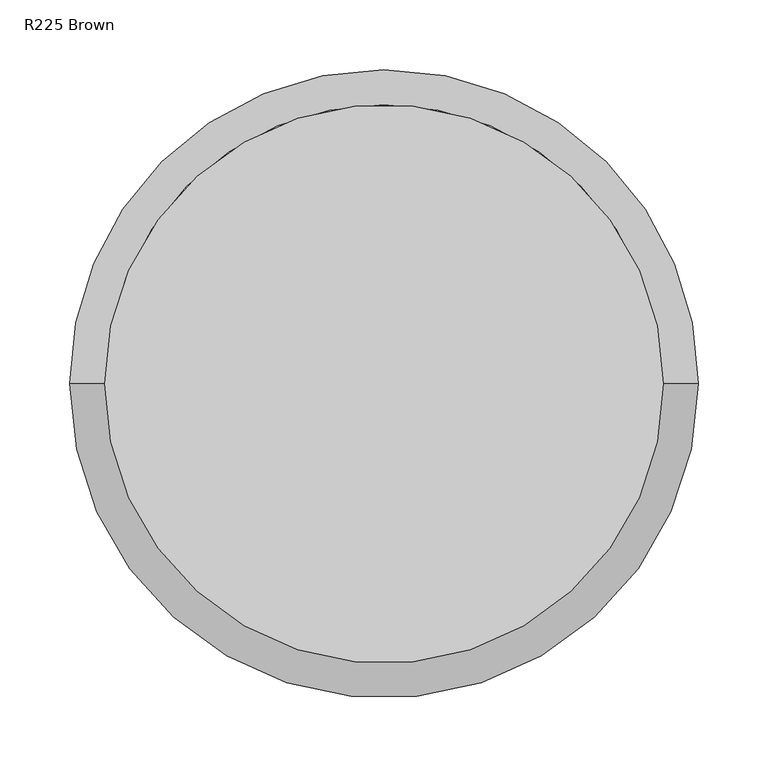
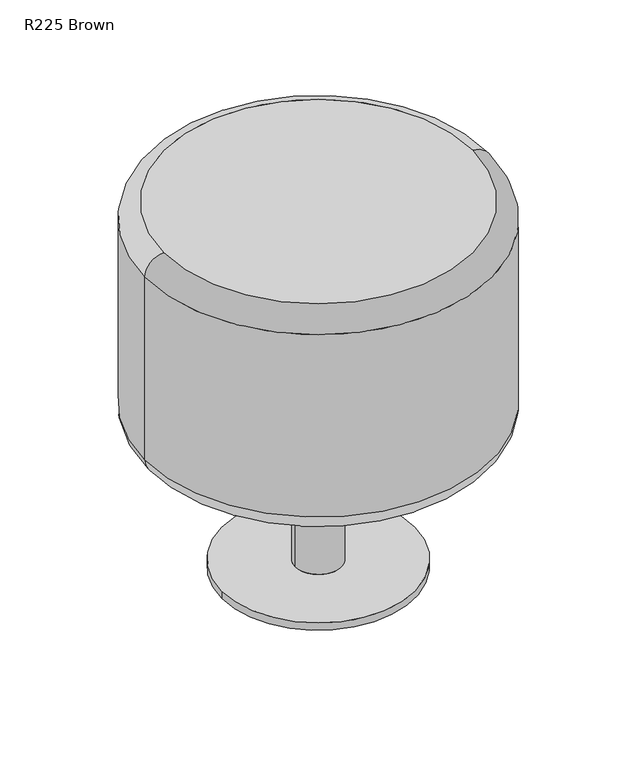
"""IFC4 building model written with IfcOpenShell, lengths in millimetres: furniture geometry, TN.RES.Stool01 : R225 Brown."""

from ifc_helpers import new_model, si_unit, point, frame, origin, origin_with_axes, place, context, project, spatial, circle_curve, ellipse_curve, trimmed, source, transform, mapped, element, save
from ifc_brep_helpers import plane_surface, cylinder_surface, revolved_surface, advanced_brep


def r225_brown_f5428c6b(model_context):
    return source(origin(), model_context, "Body", "AdvancedBrep", [
        advanced_brep(
        [(200.0, 0.0, 500.0), (-200.0, 0.0, 500.0), (200.0, 0.0, 200.0), (-200.0, 0.0, 200.0), (-225.0, 0.0, 475.0), (-225.0, 0.0, 225.0), (225.0, 0.0, 225.0), (225.0, 0.0, 475.0)],
        [
            (0, 1, circle_curve(frame((0.0, 0.0, 500.0), z_axis=(0.0, 0.0, 1.0), x_axis=(1.0, 0.0, 0.0)), 200.0)),
            (1, 0, circle_curve(frame((0.0, 0.0, 500.0), z_axis=(0.0, 0.0, 1.0), x_axis=(-1.0, 0.0, 0.0)), 200.0)),
            (2, 3, circle_curve(frame((0.0, 0.0, 200.0), z_axis=(0.0, 0.0, -1.0), x_axis=(1.0, 0.0, 0.0)), 200.0)),
            (3, 2, circle_curve(frame((0.0, 0.0, 200.0), z_axis=(0.0, 0.0, -1.0), x_axis=(-1.0, 0.0, 0.0)), 200.0)),
            (4, 5),
            (5, 6, circle_curve(frame((0.0, 0.0, 225.0), z_axis=(0.0, 0.0, 1.0), x_axis=(-1.0, 0.0, 0.0)), 225.0)),
            (6, 7),
            (7, 4, circle_curve(frame((0.0, 0.0, 475.0), z_axis=(0.0, 0.0, -1.0), x_axis=(-1.0, 0.0, 0.0)), 225.0)),
            (6, 5, circle_curve(frame((0.0, 0.0, 225.0), z_axis=(0.0, 0.0, 1.0), x_axis=(-1.0, 0.0, 0.0)), 225.0)),
            (4, 7, circle_curve(frame((0.0, 0.0, 475.0), z_axis=(0.0, 0.0, -1.0), x_axis=(-1.0, 0.0, 0.0)), 225.0)),
            (1, 4, circle_curve(frame((-200.0, 0.0, 475.0), z_axis=(0.0, -1.0, 0.0), x_axis=(-1.0, 0.0, 0.0)), 25.0)),
            (7, 0, circle_curve(frame((200.0, 0.0, 475.0), z_axis=(0.0, -1.0, 0.0), x_axis=(1.0, 0.0, 0.0)), 25.0)),
            (3, 5, circle_curve(frame((-200.0, 0.0, 225.0), z_axis=(0.0, 1.0, 0.0), x_axis=(-1.0, 0.0, 0.0)), 25.0)),
            (6, 2, circle_curve(frame((200.0, 0.0, 225.0), z_axis=(0.0, 1.0, 0.0), x_axis=(1.0, 0.0, 0.0)), 25.0)),
        ],
        [
            plane_surface(frame((-225.0, 0.0, 500.0), z_axis=(0.0, 0.0, 1.0), x_axis=(0.0, 1.0, 0.0))),
            plane_surface(frame((-225.0, 0.0, 200.0), z_axis=(0.0, 0.0, -1.0), x_axis=(0.0, -1.0, 0.0))),
            cylinder_surface(frame((0.0, 0.0, 200.0), z_axis=(0.0, 0.0, 1.0), x_axis=(-1.0, 0.0, 0.0)), 225.0),
            revolved_surface(trimmed(ellipse_curve(frame((-200.0, 0.0, 475.0), z_axis=(0.0, -1.0, 0.0), x_axis=(-1.0, 0.0, 0.0)), 25.0, 25.0), [point((-200.0, 0.0, 500.0))], [point((-225.0, 0.0, 475.0))], True, "CARTESIAN"), (0.0, 0.0, 500.0), (0.0, 0.0, -1.0)),
            revolved_surface(trimmed(ellipse_curve(frame((200.0, 0.0, 475.0), z_axis=(0.0, 1.0, 0.0), x_axis=(1.0, 0.0, 0.0)), 25.0, 25.0), [point((200.0, 0.0, 500.0))], [point((225.0, 0.0, 475.0))], True, "CARTESIAN"), (0.0, 0.0, 500.0), (0.0, 0.0, -1.0)),
            revolved_surface(trimmed(ellipse_curve(frame((-200.0, 0.0, 225.0), z_axis=(0.0, 1.0, 0.0), x_axis=(-1.0, 0.0, 0.0)), 25.0, 25.0), [point((-200.0, 0.0, 200.0))], [point((-225.0, 0.0, 225.0))], True, "CARTESIAN"), (0.0, 0.0, 200.0), (0.0, 0.0, 1.0)),
            revolved_surface(trimmed(ellipse_curve(frame((200.0, 0.0, 225.0), z_axis=(0.0, -1.0, 0.0), x_axis=(1.0, 0.0, 0.0)), 25.0, 25.0), [point((200.0, 0.0, 200.0))], [point((225.0, 0.0, 225.0))], True, "CARTESIAN"), (0.0, 0.0, 200.0), (0.0, 0.0, 1.0)),
        ],
        [
            (0, [[1, 2]]),
            (1, [[3, 4]]),
            (2, [[5, 6, 7, 8]]),
            (2, [[-7, 9, -5, 10]]),
            (3, [[-2, 11, -8, 12]]),
            (4, [[-10, -11, -1, -12]]),
            (5, [[-4, 13, -9, 14]]),
            (6, [[-6, -13, -3, -14]]),
        ],
    ),
        advanced_brep(
        [(30.0, 0.0, 200.0), (-30.0, 0.0, 200.0), (-30.0, 0.0, 10.0), (30.0, 0.0, 10.0), (-125.0, 0.0, 10.0), (125.0, 0.0, 10.0), (-125.0, 0.0, 0.0), (125.0, 0.0, 0.0)],
        [
            (0, 1, circle_curve(frame((0.0, 0.0, 200.0), z_axis=(0.0, 0.0, 1.0), x_axis=(-1.0, 0.0, 0.0)), 30.0)),
            (1, 0, circle_curve(frame((0.0, 0.0, 200.0), z_axis=(0.0, 0.0, 1.0), x_axis=(-1.0, 0.0, 0.0)), 30.0)),
            (1, 2),
            (2, 3, circle_curve(frame((0.0, 0.0, 10.0), z_axis=(0.0, 0.0, 1.0), x_axis=(-1.0, 0.0, 0.0)), 30.0)),
            (3, 0),
            (3, 2, circle_curve(frame((0.0, 0.0, 10.0), z_axis=(0.0, 0.0, 1.0), x_axis=(-1.0, 0.0, 0.0)), 30.0)),
            (4, 5, circle_curve(frame((0.0, 0.0, 10.0), z_axis=(0.0, 0.0, 1.0), x_axis=(1.0, 0.0, 0.0)), 125.0)),
            (5, 4, circle_curve(frame((0.0, 0.0, 10.0), z_axis=(0.0, 0.0, 1.0), x_axis=(1.0, 0.0, 0.0)), 125.0)),
            (6, 7, circle_curve(frame((0.0, 0.0, 0.0), z_axis=(0.0, 0.0, -1.0), x_axis=(1.0, 0.0, 0.0)), 125.0)),
            (7, 6, circle_curve(frame((0.0, 0.0, 0.0), z_axis=(0.0, 0.0, -1.0), x_axis=(1.0, 0.0, 0.0)), 125.0)),
            (5, 7),
            (6, 4),
        ],
        [
            plane_surface(frame((-30.0, 0.0, 200.0), z_axis=(0.0, 0.0, 1.0), x_axis=(0.0, 1.0, 0.0))),
            cylinder_surface(frame((0.0, 0.0, 10.0), z_axis=(0.0, 0.0, 1.0), x_axis=(-1.0, 0.0, 0.0)), 30.0),
            plane_surface(frame((125.0, 0.0, 10.0), z_axis=(0.0, 0.0, 1.0), x_axis=(0.0, -1.0, 0.0))),
            plane_surface(frame((125.0, 0.0, 0.0), z_axis=(0.0, 0.0, -1.0), x_axis=(0.0, 1.0, 0.0))),
            cylinder_surface(origin_with_axes(), 125.0),
        ],
        [
            (0, [[1, 2]]),
            (1, [[3, 4, 5, -2]]),
            (1, [[-5, 6, -3, -1]]),
            (2, [[7, 8], [-6, -4]]),
            (3, [[9, 10]]),
            (4, [[11, -9, 12, -8]]),
            (4, [[-12, -10, -11, -7]]),
        ],
    ),
    ])


if __name__ == "__main__":
    model = new_model("IFC4")
    model_context = context("Model", 3, world=origin())
    ifc_project = project(units=[si_unit("LENGTHUNIT", "METRE", prefix="MILLI")], contexts=[model_context])
    site = spatial("IfcSite", under=ifc_project)
    building = spatial("IfcBuilding", under=site)
    placement = place(None, origin())
    r225_brown_shape = r225_brown_f5428c6b(model_context)
    element("IfcFurniture", 1, ObjectType="TN.RES.Stool01 : R225 Brown", at=placement, inside=building, context=model_context, shape_type="MappedRepresentation", body=[
        mapped(r225_brown_shape, transform((0.0, 0.0, 0.0), x_axis=(1.0, 0.0, 0.0), y_axis=(0.0, 1.0, 0.0), z_axis=(0.0, 0.0, 1.0))),
    ])
    save(model, "model.ifc")
